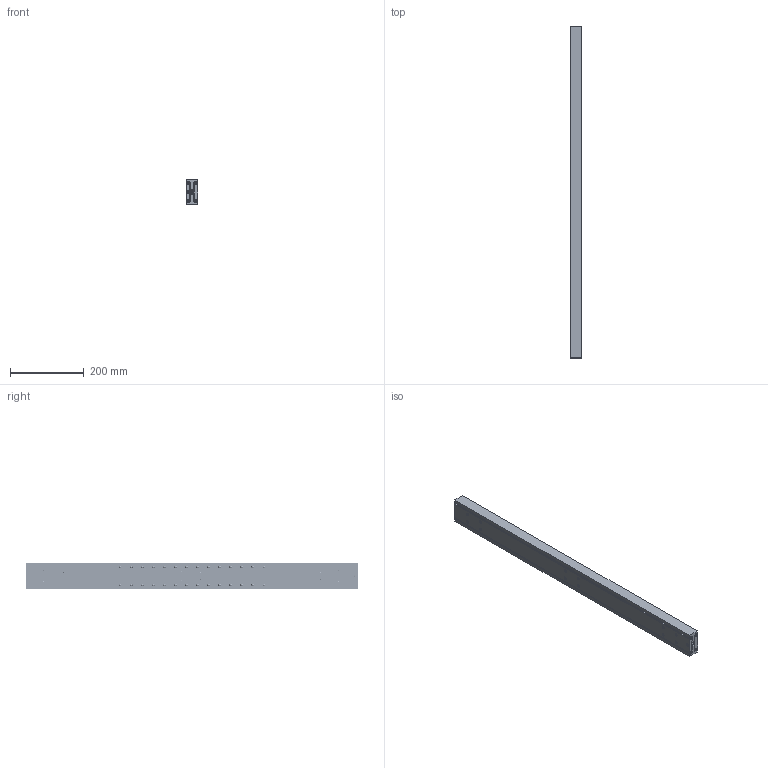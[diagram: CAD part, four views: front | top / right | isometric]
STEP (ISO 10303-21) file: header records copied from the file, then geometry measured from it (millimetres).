
FILE_DESCRIPTION(/* description */ (''),/* implementation_level */ '2;1');
FILE_NAME(/* name */ 'D:\Zeichnungen Schienen Komplett\MX-DTP70\MX-DTP70.090\MX-DTP70.090_eingefahren.step',/* time_stamp */ '2022-08-30T09:31:41+02:00',/* author */ ('zmile'),/* organization */ (''),/* preprocessor_version */ 'ST-DEVELOPER v16.13',/* originating_system */ 'AutoCAD Mechanical',/* authorisation */ '');
FILE_SCHEMA (('AUTOMOTIVE_DESIGN { 1 0 10303 214 3 1 1 }'));
Products named in the file (1): Product
Bounding box: 32 x 900 x 70 mm (x, y, z)
Volume: 1592246.3 mm3; surface area: 567353.9 mm2
Topology: 63 solids, 63 shells, 330 faces, 928 edges, 616 vertices
Faces by surface type: cylinder 96, plane 86, bspline 86, sphere 56, torus 6
Full cylindrical faces by diameter (mm): 9 x56, 13 x2
Entity records: 192507 total; most frequent: CARTESIAN_POINT 184953, ORIENTED_EDGE 1500, DIRECTION 1222, EDGE_CURVE 750, VERTEX_POINT 614, EDGE_LOOP 562, AXIS2_PLACEMENT_3D 505, FACE_OUTER_BOUND 330
